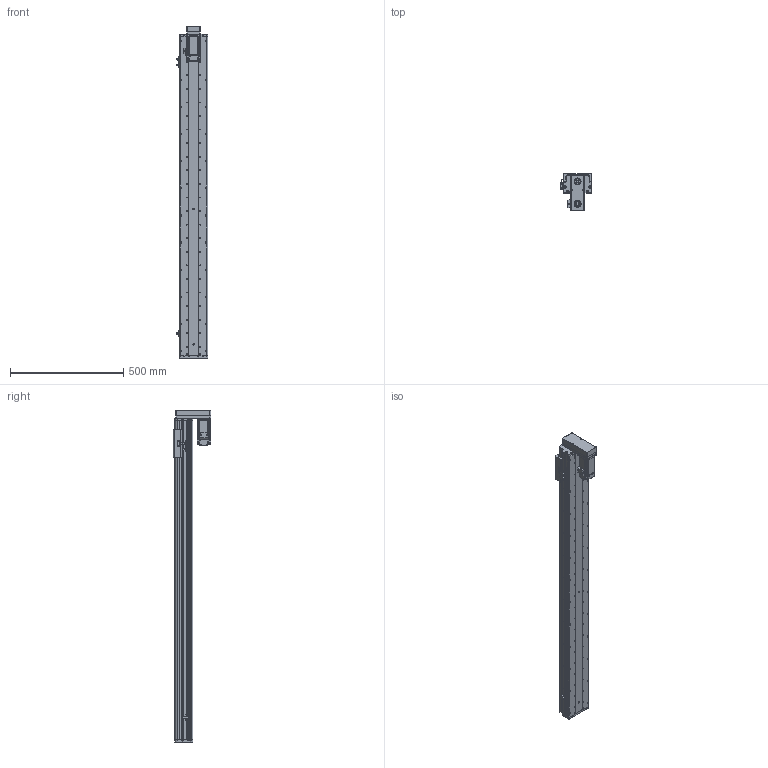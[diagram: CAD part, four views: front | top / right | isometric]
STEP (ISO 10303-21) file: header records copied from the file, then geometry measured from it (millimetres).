
FILE_DESCRIPTION (( 'STEP AP214' ), '1' );
FILE_NAME ('KSD125S-S1200-MD-CM.STEP', '2017-10-21T08:20:35', ( '微软用户' ), ( '微软中国' ), 'SwSTEP 2.0', 'SolidWorks 2014', '' );
FILE_SCHEMA (( 'AUTOMOTIVE_DESIGN' ));
Length unit declared in the file: millimetre
Products named in the file (16): 125宽马达安装板连板上下折丝杆同步带; 125遵悵誘欶奻狟殏; HTPA30S3M150_A_H6_a佪裝蚚; HTPA30S3M150_A_H6_a萇儂蚚; KSD125S-1200俴最佪裝滅鳥裔; KSD125S-1200俴最佪裝菁啣; KSD125-賑雄釱1; MHMD042G1CA_2_03; 拸萇儂釱滅袉菜; 拸萇儂釱滅袉菜-1; 覜茼え68遵圉猾敕; U倰嫖萇假蚾璃; U倰嫖萇EEㄜSX672; ヶ傷啣-125遵耀郪; 125-帣傷啣1; KSD125S-S1200-MD-CM
Assembly tree (19 placements, depth 2):
  KSD125S-S1200-MD-CM
    125-帣傷啣1
    ヶ傷啣-125遵耀郪
    U倰嫖萇EEㄜSX672  x3
    U倰嫖萇假蚾璃  x3
    覜茼え68遵圉猾敕
    拸萇儂釱滅袉菜-1
    拸萇儂釱滅袉菜
    MHMD042G1CA_2_03
    KSD125-賑雄釱1
    KSD125S-1200俴最佪裝菁啣
    KSD125S-1200俴最佪裝滅鳥裔
    HTPA30S3M150_A_H6_a萇儂蚚
    HTPA30S3M150_A_H6_a佪裝蚚
    125遵悵誘欶奻狟殏
    125宽马达安装板连板上下折丝杆同步带
Bounding box: 138.7 x 165 x 1467.5 mm (x, y, z)
Volume: 4482273.4 mm3; surface area: 1495860.6 mm2
Topology: 18 solids, 21 shells, 2291 faces, 6651 edges, 4389 vertices
Faces by surface type: cylinder 1458, plane 692, cone 119, bspline 22
Entity records: 82607 total; most frequent: CARTESIAN_POINT 16465, DIRECTION 12685, ORIENTED_EDGE 11810, EDGE_CURVE 5983, AXIS2_PLACEMENT_3D 4923, VERTEX_POINT 3981, CIRCLE 2851, LINE 2839
